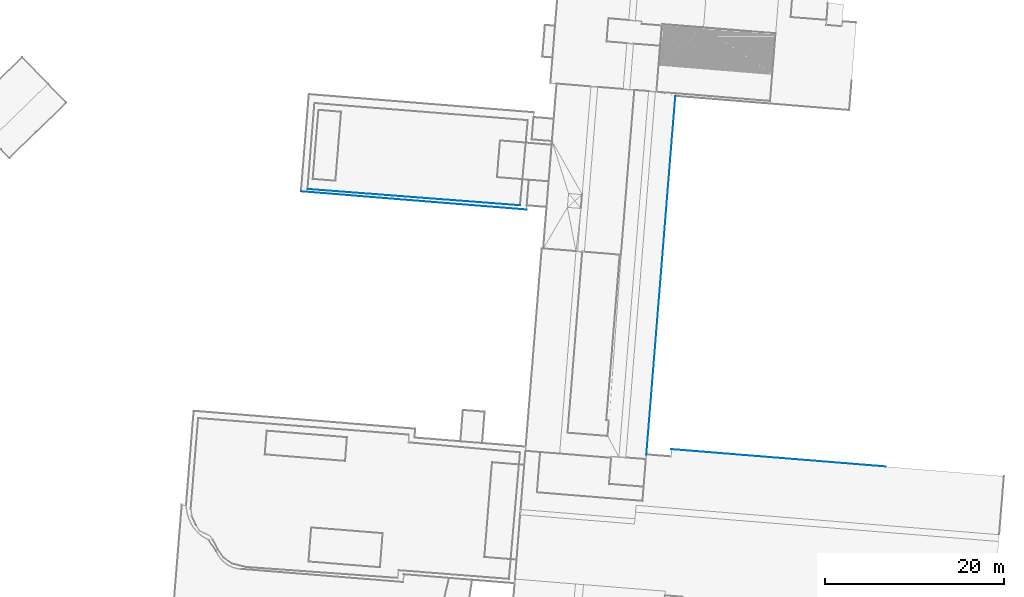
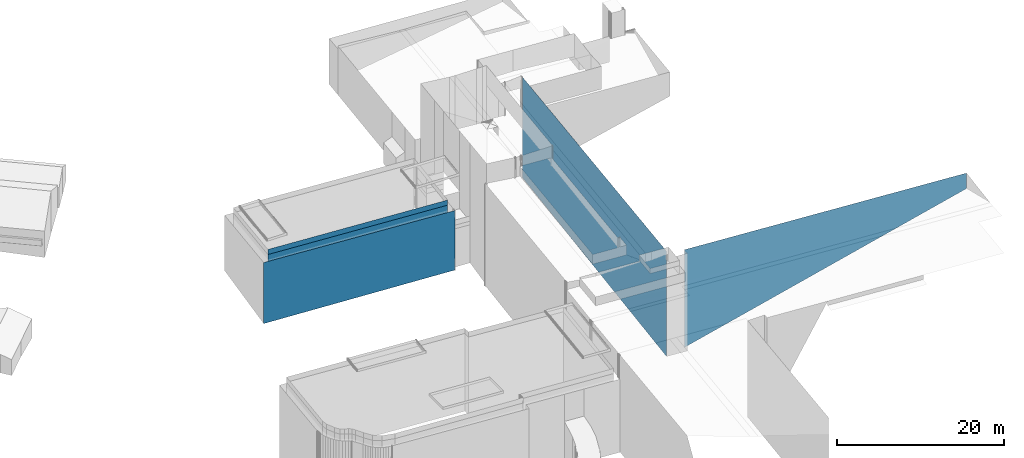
# Not in any storey, part 76 of 136: 6 walls.
"""IFC4 building model written with IfcOpenShell, lengths in metres."""

import ifcopenshell
import ifcopenshell.guid

model = None  # the IFC model being written
_history = None  # IfcOwnerHistory: only IFC2X3 demands one
_inside = {}  # id of a spatial element -> (the spatial element, [elements in it])
_under = {}  # id of a project, library or spatial element -> (it, [spatial elements below it])
_declared = {}  # id of a project -> (the project, [libraries it declares])
_typed = {}  # id of a type object -> (the type object, [elements of that type])
_made_of = {}  # id of a material, layer set ... -> (it, [elements and type objects made of it])


def new_model(schema):
    """Start an empty IFC model of exactly this schema.

    Asked for "IFC4X3", IfcOpenShell would pick the latest addendum, in which some entities
    have other attributes; the version numbers below select the first issue.
    IFC2X3 requires an IfcOwnerHistory on every rooted entity: one is made here for all.
    """
    global model, _history
    if schema == "IFC4X3":
        model = ifcopenshell.file(schema_version=(4, 3, 0, 0))
    else:
        model = ifcopenshell.file(schema=schema)
    _inside.clear()
    _under.clear()
    _declared.clear()
    _typed.clear()
    _made_of.clear()
    _history = None
    if model.schema == "IFC2X3":
        org = make("IfcOrganization", Name="unknown")
        user = make(
            "IfcPersonAndOrganization",
            ThePerson=make("IfcPerson", FamilyName="unknown"),
            TheOrganization=org,
        )
        app = make(
            "IfcApplication",
            ApplicationDeveloper=org,
            Version="unknown",
            ApplicationFullName="unknown",
            ApplicationIdentifier="unknown",
        )
        _history = make(
            "IfcOwnerHistory",
            OwningUser=user,
            OwningApplication=app,
            ChangeAction="ADDED",
            CreationDate=0,
        )
    return model


def make(cls, **values):
    """One entity of the class cls with the attributes given. An attribute that is None is left unset."""
    return model.create_entity(
        cls, **{name: value for name, value in values.items() if value is not None}
    )


def entity(cls, *values):
    """Any entity or typed value of the class cls, its attributes in the order of the schema. None: left unset."""
    e = model.create_entity(cls)
    for i, value in enumerate(values):
        if value is not None:
            e[i] = value
    return e


def rooted(cls, **values):
    """An entity with a GlobalId (a new one), such as an element, a storey or a relation."""
    return make(cls, GlobalId=ifcopenshell.guid.new(), OwnerHistory=_history, **values)


def si_unit(unit_type, name, prefix=None):
    """IfcSIUnit, for example si_unit("LENGTHUNIT", "METRE", prefix="MILLI")."""
    return make("IfcSIUnit", UnitType=unit_type, Prefix=prefix, Name=name)


def converted_unit(unit_type, name, factor, base, dimensions=None, offset=None):
    """IfcConversionBasedUnit, such as the inch: factor (a typed value) times the base unit."""
    return make(
        "IfcConversionBasedUnit"
        if offset is None
        else "IfcConversionBasedUnitWithOffset",
        ConversionOffset=offset,
        Dimensions=None
        if dimensions is None
        else entity("IfcDimensionalExponents", *dimensions),
        UnitType=unit_type,
        Name=name,
        ConversionFactor=make(
            "IfcMeasureWithUnit", ValueComponent=factor, UnitComponent=base
        ),
    )


def assignment(units):
    """IfcUnitAssignment: the units of a project."""
    return None if units is None else make("IfcUnitAssignment", Units=units)


def point(xyz):
    """IfcCartesianPoint."""
    return None if xyz is None else make("IfcCartesianPoint", Coordinates=xyz)


def direction(xyz):
    """IfcDirection."""
    return None if xyz is None else make("IfcDirection", DirectionRatios=xyz)


def frame(location, z_axis=None, x_axis=None):
    """IfcAxis2Placement3D, a coordinate frame: its origin and axes. An axis left out is left unset."""
    return make(
        "IfcAxis2Placement3D",
        Location=point(location),
        Axis=direction(z_axis),
        RefDirection=direction(x_axis),
    )


def origin():
    """The frame at (0, 0, 0) with its axes left unset."""
    return frame((0.0, 0.0, 0.0))


def place(relative_to, where):
    """IfcLocalPlacement: puts the frame where relative to a parent placement (None: the world)."""
    return make(
        "IfcLocalPlacement", PlacementRelTo=relative_to, RelativePlacement=where
    )


def context(
    kind, dimensions, precision=None, world=None, true_north=None, identifier=None
):
    """IfcGeometricRepresentationContext, for example the 3D "Model" context."""
    return make(
        "IfcGeometricRepresentationContext",
        ContextIdentifier=identifier,
        ContextType=kind,
        CoordinateSpaceDimension=dimensions,
        Precision=precision,
        WorldCoordinateSystem=world,
        TrueNorth=true_north,
    )


def subcontext(parent, identifier, kind, view, scale=None):
    """IfcGeometricRepresentationSubContext, for example "Body" below "Model"."""
    return make(
        "IfcGeometricRepresentationSubContext",
        ContextIdentifier=identifier,
        ContextType=kind,
        ParentContext=parent,
        TargetScale=scale,
        TargetView=view,
    )


def project(units=None, contexts=None):
    """IfcProject with its units and contexts."""
    return rooted(
        "IfcProject",
        Name="project",
        RepresentationContexts=contexts,
        UnitsInContext=assignment(units),
    )


def spatial(cls, under=None, at=None, **own):
    """A site, building, storey or space (cls), placed at a placement, below another one or the project."""
    s = rooted(cls, ObjectPlacement=at, **own)
    if under is not None:
        _under.setdefault(under.id(), (under, []))[1].append(s)
    return s


def faces_of(points, faces, orient=None, outer=None):
    """IfcFace entities. A face is a list of loops; a loop is a list of indices into points, from 0.

    orient and outer hold one flag for each loop. By default every Orientation is true, the
    first loop of a face is its IfcFaceOuterBound and the others are IfcFaceBound.
    """
    made = []
    for i, loops in enumerate(faces):
        bounds = []
        for j, loop in enumerate(loops):
            is_outer = j == 0 if outer is None else outer[i][j]
            bounds.append(
                make(
                    "IfcFaceOuterBound" if is_outer else "IfcFaceBound",
                    Bound=make("IfcPolyLoop", Polygon=[points[k] for k in loop]),
                    Orientation=True if orient is None else orient[i][j],
                )
            )
        made.append(make("IfcFace", Bounds=bounds))
    return made


def face_set(faces, orient=None, outer=None):
    """The faces of one IfcConnectedFaceSet. surface_model builds it on its shared points."""
    return ("IfcConnectedFaceSet", faces, orient, outer)


def surface_model(cls, points, shells):
    """IfcFaceBasedSurfaceModel or IfcShellBasedSurfaceModel (cls): surfaces that need not close."""
    shared = [point(p) for p in points]
    made = [make(c, CfsFaces=faces_of(shared, fs, o, b)) for c, fs, o, b in shells]
    if cls == "IfcFaceBasedSurfaceModel":
        return make(cls, FbsmFaces=made)
    return make(cls, SbsmBoundary=made)


def shape(context_of_items, identifier, shape_type, items):
    """IfcShapeRepresentation: the items that make up one representation, for example the "Body"."""
    return make(
        "IfcShapeRepresentation",
        ContextOfItems=context_of_items,
        RepresentationIdentifier=identifier,
        RepresentationType=shape_type,
        Items=items,
    )


def made_of(thing, what):
    """Note that an element or type object is made of a material, layer set ...; save() writes the relation."""
    if what is not None:
        _made_of.setdefault(what.id(), (what, []))[1].append(thing)
    return thing


def element(
    cls,
    number,
    at=None,
    inside=None,
    cuts=None,
    type_object=None,
    material=None,
    context=None,
    identifier="Body",
    shape_type=None,
    held_by="IfcProductDefinitionShape",
    body=None,
    shapes=None,
    **own,
):
    """One element of the class cls, such as IfcWall. Its Tag is "e" and its number.

    at: its placement. inside: the storey or other place that contains it. cuts: it is an
    opening in that element (IfcRelVoidsElement). A single representation is given by context,
    identifier, shape_type and body (its items); several are given by shapes. held_by: the class
    of the entity that holds the representations. save() writes the other relations.
    """
    e = rooted(cls, Tag="e%d" % number, ObjectPlacement=at, **own)
    if body is not None:
        shapes = [shape(context, identifier, shape_type, body)]
    if shapes is not None:
        e.Representation = make(held_by, Representations=shapes)
    if inside is not None:
        _inside.setdefault(inside.id(), (inside, []))[1].append(e)
    if cuts is not None:
        rooted(
            "IfcRelVoidsElement", RelatingBuildingElement=cuts, RelatedOpeningElement=e
        )
    if type_object is not None:
        _typed.setdefault(type_object.id(), (type_object, []))[1].append(e)
    return made_of(e, material)


def aggregate(whole, parts):
    """IfcRelAggregates: a whole, such as a stair, and the parts it consists of."""
    return rooted("IfcRelAggregates", RelatingObject=whole, RelatedObjects=parts)


def save(model, path):
    """Write the relations noted so far, then the file.

    IfcRelAggregates (storeys below a building ...), IfcRelContainedInSpatialStructure (elements
    in a storey), IfcRelDefinesByType, IfcRelAssociatesMaterial and IfcRelDeclares: one each for
    every whole, place, type object, material and project.
    """
    for whole, parts in _under.values():
        aggregate(whole, parts)
    for where, things in _inside.values():
        rooted(
            "IfcRelContainedInSpatialStructure",
            RelatedElements=things,
            RelatingStructure=where,
        )
    for kind, things in _typed.values():
        rooted("IfcRelDefinesByType", RelatedObjects=things, RelatingType=kind)
    for what, things in _made_of.values():
        rooted("IfcRelAssociatesMaterial", RelatedObjects=things, RelatingMaterial=what)
    for by, libraries in _declared.values():
        rooted("IfcRelDeclares", RelatingContext=by, RelatedDefinitions=libraries)
    model.write(path)


model = new_model("IFC4")

# Units and contexts
model_context = context("Model", 3, precision=1e-05, world=origin())
body_context = subcontext(model_context, "Body", "Model", "MODEL_VIEW")
ifc_project = project(units=[converted_unit("PLANEANGLEUNIT", "DEGREE", entity("IfcRatioMeasure", 0.0174532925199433), si_unit("PLANEANGLEUNIT", "RADIAN"), dimensions=[0, 0, 0, 0, 0, 0, 0]), si_unit("AREAUNIT", "SQUARE_METRE"), si_unit("LENGTHUNIT", "METRE")], contexts=[model_context])

# Site, building
site_placement = place(None, origin())
site = spatial("IfcSite", under=ifc_project, at=site_placement, Name="_site")
building_placement = place(site_placement, origin())
building = spatial("IfcBuilding", under=site, at=building_placement, Name="_building")

# Walls
wall_1_placement = place(building_placement, origin())
element("IfcWall", 1, at=wall_1_placement, inside=building, Name="Wall", PredefinedType="NOTDEFINED", context=body_context, shape_type="SurfaceModel", body=[
    surface_model("IfcFaceBasedSurfaceModel", [(213.2, 92.64, 47.4), (188.0, 94.68, 47.4), (188.0, 94.68, 38.491), (213.2, 92.64, 38.723)], [face_set([[[0, 1, 2, 3]]])]),
])
wall_2_placement = place(building_placement, origin())
element("IfcWall", 2, at=wall_2_placement, inside=building, Name="Wall", PredefinedType="NOTDEFINED", context=body_context, shape_type="SurfaceModel", body=[
    surface_model("IfcFaceBasedSurfaceModel", [(212.49, 93.12, 48.15), (188.73, 94.94, 48.15), (188.73, 94.94, 38.53), (212.49, 93.12, 38.755)], [face_set([[[0, 1, 2, 3]]])]),
])
wall_3_placement = place(building_placement, origin())
element("IfcWall", 3, at=wall_3_placement, inside=building, Name="Wall", PredefinedType="NOTDEFINED", context=body_context, shape_type="SurfaceModel", body=[
    surface_model("IfcFaceBasedSurfaceModel", [(229.85, 105.351, 53.35), (226.61, 65.26, 53.35), (226.61, 65.26, 38.0), (229.85, 105.351, 38.677)], [face_set([[[0, 1, 2, 3]]])]),
])
wall_4_placement = place(building_placement, origin())
element("IfcWall", 4, at=wall_4_placement, inside=building, Name="Wall", PredefinedType="NOTDEFINED", context=body_context, shape_type="SurfaceModel", body=[
    surface_model("IfcFaceBasedSurfaceModel", [(229.4, 65.851, 52.25), (266.59, 62.84, 52.25), (266.59, 62.84, 49.983), (229.4, 65.851, 38.0)], [face_set([[[0, 1, 2, 3]]])]),
])
for number, where, name in (
    (5, (0.0, 0.0, 0.0), "Wall"),
    (6, (0.0, 0.0, 0.0), "Wall"),
):
    element("IfcWall", number, at=place(building_placement, frame(where)), inside=building, Name=name, PredefinedType="NOTDEFINED", context=body_context, shape_type="SurfaceModel", body=[
        surface_model("IfcFaceBasedSurfaceModel", [(212.49, 93.12, 48.15), (188.73, 94.94, 48.15), (188.73, 94.94, 48.9), (212.49, 93.12, 48.9)], [face_set([[[0, 1, 2, 3]]])]),
    ])

save(model, "model.ifc")
